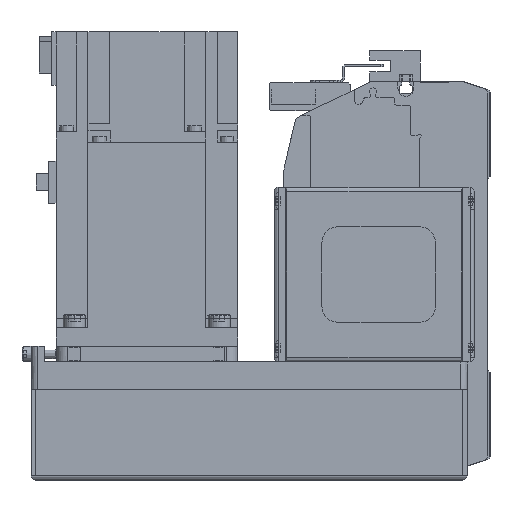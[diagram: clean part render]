
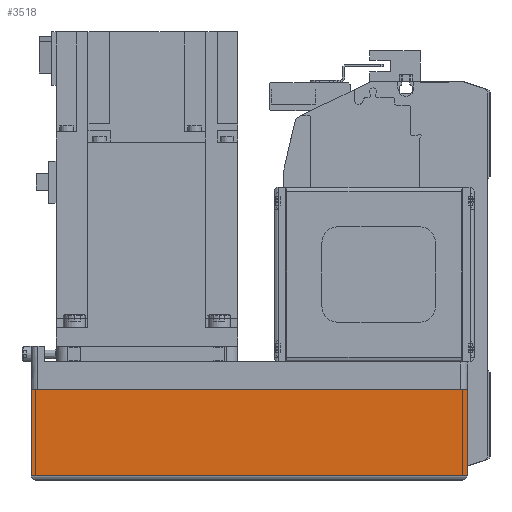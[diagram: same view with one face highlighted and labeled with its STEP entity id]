
A CAD part, left-side view. The second image highlights one B-rep face of the part: STEP entity #3518.
In plain terms, the highlighted planar face has unit normal (-1, 0, 0) as drawn and (0, -1, 0) by its records, which use the part's own axes.
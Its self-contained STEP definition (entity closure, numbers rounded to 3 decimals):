
#3518 = ADVANCED_FACE( '', ( #7376 ), #7377, .T. );
#7376 = FACE_OUTER_BOUND( '', #11242, .T. );
#7377 = PLANE( '', #11243 );
#11242 = EDGE_LOOP( '', ( #21099, #21100, #21101, #21102 ) );
#11243 = AXIS2_PLACEMENT_3D( '', #21103, #21104, #21105 );
#21099 = ORIENTED_EDGE( '', *, *, #25211, .F. );
#21100 = ORIENTED_EDGE( '', *, *, #23759, .F. );
#21101 = ORIENTED_EDGE( '', *, *, #24273, .T. );
#21102 = ORIENTED_EDGE( '', *, *, #25131, .T. );
#21103 = CARTESIAN_POINT( '', ( -192., -40., -12.1 ) );
#21104 = DIRECTION( '', ( 0., -1., 0. ) );
#21105 = DIRECTION( '', ( 0., 0., -1. ) );
#23759 = EDGE_CURVE( '', #28626, #28604, #29139, .T. );
#24273 = EDGE_CURVE( '', #28626, #29855, #29857, .T. );
#25131 = EDGE_CURVE( '', #29855, #30503, #30934, .T. );
#25211 = EDGE_CURVE( '', #28604, #30503, #31023, .T. );
#28604 = VERTEX_POINT( '', #36155 );
#28626 = VERTEX_POINT( '', #36188 );
#29139 = LINE( '', #37259, #37260 );
#29855 = VERTEX_POINT( '', #38293 );
#29857 = LINE( '', #38296, #38297 );
#30503 = VERTEX_POINT( '', #39317 );
#30934 = LINE( '', #40016, #40017 );
#31023 = LINE( '', #40187, #40188 );
#36155 = CARTESIAN_POINT( '', ( 0., -40., -12.1 ) );
#36188 = CARTESIAN_POINT( '', ( -192., -40., -12.1 ) );
#37259 = CARTESIAN_POINT( '', ( -192., -40., -12.1 ) );
#37260 = VECTOR( '', #43345, 1000. );
#38293 = CARTESIAN_POINT( '', ( -192., -40., -50. ) );
#38296 = CARTESIAN_POINT( '', ( -192., -40., -12.1 ) );
#38297 = VECTOR( '', #43964, 1000. );
#39317 = CARTESIAN_POINT( '', ( 0., -40., -50. ) );
#40016 = CARTESIAN_POINT( '', ( -192., -40., -50. ) );
#40017 = VECTOR( '', #44842, 1000. );
#40187 = CARTESIAN_POINT( '', ( 0., -40., -12.1 ) );
#40188 = VECTOR( '', #44880, 1000. );
#43345 = DIRECTION( '', ( 1., 0., 0. ) );
#43964 = DIRECTION( '', ( 0., 0., -1. ) );
#44842 = DIRECTION( '', ( 1., 0., 0. ) );
#44880 = DIRECTION( '', ( 0., 0., -1. ) );
